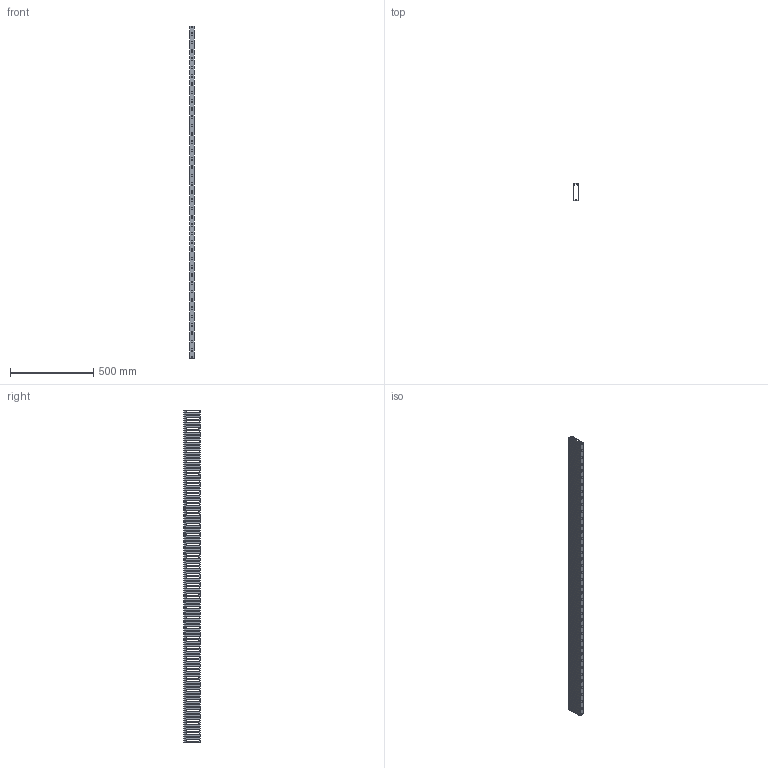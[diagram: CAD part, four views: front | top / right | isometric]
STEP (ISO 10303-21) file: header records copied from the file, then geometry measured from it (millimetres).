
FILE_DESCRIPTION (( 'STEP AP214' ), '1' );
FILE_NAME ('KD-310-20-H.STEP', '2020-02-19T01:36:03', ( '' ), ( '' ), 'SwSTEP 2.0', 'SolidWorks 2018', '' );
FILE_SCHEMA (( 'AUTOMOTIVE_DESIGN' ));
Length unit declared in the file: millimetre
Products named in the file (3): KD-310-20-H-body; KD-34-20-cover; KD-310-20-H
Assembly tree (2 placements, depth 2):
  KD-310-20-H
    KD-310-20-H-body
    KD-34-20-cover
Bounding box: 30 x 100.17 x 2000 mm (x, y, z)
Volume: 729210.3 mm3; surface area: 946620.3 mm2
Topology: 2 solids, 2 shells, 1863 faces, 5577 edges, 3718 vertices
Faces by surface type: cylinder 955, plane 908
Entity records: 64367 total; most frequent: DIRECTION 11223, CARTESIAN_POINT 11163, ORIENTED_EDGE 11154, EDGE_CURVE 5577, AXIS2_PLACEMENT_3D 3778, VERTEX_POINT 3718, LINE 3667, VECTOR 3667
